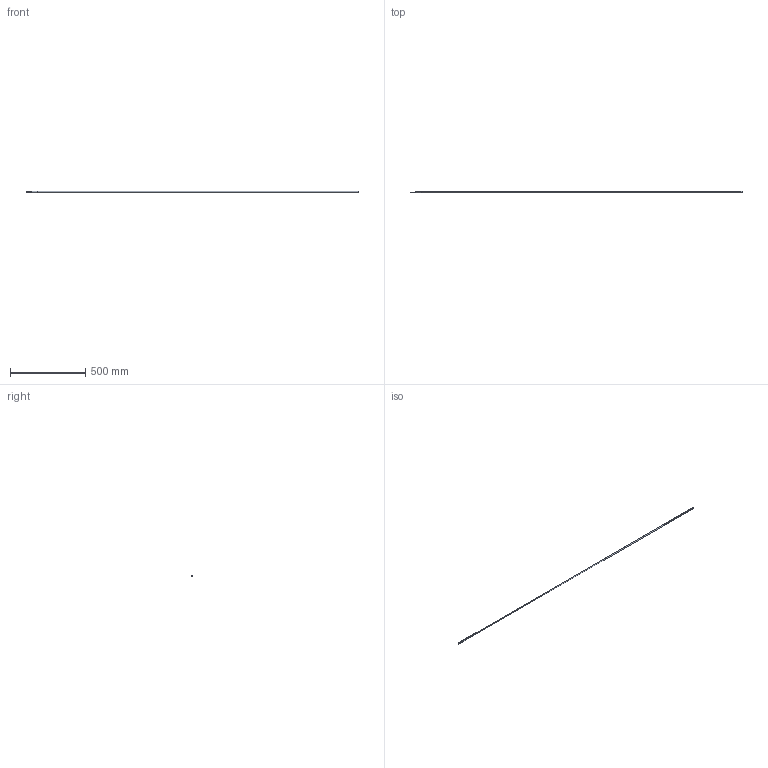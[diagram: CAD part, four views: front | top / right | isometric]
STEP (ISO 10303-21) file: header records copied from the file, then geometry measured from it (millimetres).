
FILE_DESCRIPTION (( 'STEP AP214' ), '1' );
FILE_NAME ('dgrj.STEP', '2008-01-09T20:43:34', ( '' ), ( '' ), 'SwSTEP 2.0', 'SolidWorks 2007', '' );
FILE_SCHEMA (( 'AUTOMOTIVE_DESIGN' ));
Length unit declared in the file: inch
Products named in the file (4): CompressionLug_6_625; dgrj; Cable_7 Feet; Splice_.312
Assembly tree (3 placements, depth 2):
  dgrj
    Splice_.312
    Cable_7 Feet
    CompressionLug_6_625
Bounding box: 2207.39 x 9.65 x 10.31 mm (x, y, z)
Volume: 96203.6 mm3; surface area: 54755 mm2
Topology: 3 solids, 3 shells, 30 faces, 66 edges, 43 vertices
Faces by surface type: plane 16, cylinder 14
Entity records: 983 total; most frequent: DIRECTION 167, CARTESIAN_POINT 148, ORIENTED_EDGE 132, EDGE_CURVE 66, AXIS2_PLACEMENT_3D 66, VERTEX_POINT 43, EDGE_LOOP 37, VECTOR 35
